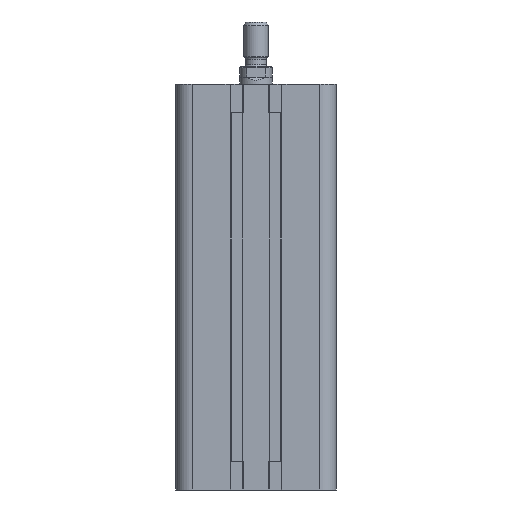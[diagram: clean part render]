
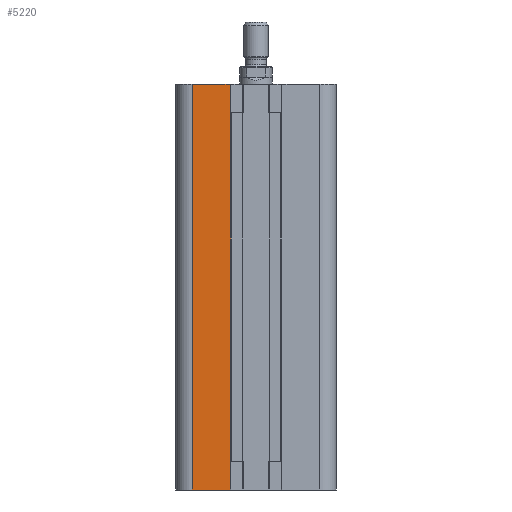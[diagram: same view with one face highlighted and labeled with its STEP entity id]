
A CAD part, front view. The second image highlights one B-rep face of the part: STEP entity #5220.
In plain terms, the highlighted planar face has unit normal (0, -1, 0).
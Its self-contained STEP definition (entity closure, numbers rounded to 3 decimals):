
#149 = EDGE_CURVE ( 'NONE', #9213, #9201, #11507, .T. ) ;
#152 = EDGE_CURVE ( 'NONE', #9214, #5952, #11514, .T. ) ;
#1836 = ORIENTED_EDGE ( 'NONE', *, *, #3525, .T. ) ;
#1837 = ORIENTED_EDGE ( 'NONE', *, *, #3111, .F. ) ;
#1838 = ORIENTED_EDGE ( 'NONE', *, *, #152, .F. ) ;
#1839 = ORIENTED_EDGE ( 'NONE', *, *, #3489, .T. ) ;
#1840 = ORIENTED_EDGE ( 'NONE', *, *, #149, .T. ) ;
#1841 = ORIENTED_EDGE ( 'NONE', *, *, #3492, .F. ) ;
#1842 = ORIENTED_EDGE ( 'NONE', *, *, #3524, .F. ) ;
#1843 = ORIENTED_EDGE ( 'NONE', *, *, #3062, .F. ) ;
#2218 = CARTESIAN_POINT ( 'NONE',  ( -12.7, -39.25, 282.716 ) ) ;
#2224 = DIRECTION ( 'NONE',  ( 0., 0., -1. ) ) ;
#2229 = CARTESIAN_POINT ( 'NONE',  ( -12.375, -39.25, 171. ) ) ;
#2233 = DIRECTION ( 'NONE',  ( 0., 0., 1. ) ) ;
#3062 = EDGE_CURVE ( 'NONE', #5984, #5983, #4470, .T. ) ;
#3111 = EDGE_CURVE ( 'NONE', #5952, #5951, #11758, .T. ) ;
#3489 = EDGE_CURVE ( 'NONE', #9214, #9213, #7593, .T. ) ;
#3492 = EDGE_CURVE ( 'NONE', #9329, #9201, #7599, .T. ) ;
#3524 = EDGE_CURVE ( 'NONE', #5983, #9329, #7649, .T. ) ;
#3525 = EDGE_CURVE ( 'NONE', #5984, #5951, #7651, .T. ) ;
#4470 = LINE ( 'NONE', #4777, #4472 ) ;
#4472 = VECTOR ( 'NONE', #4778, 1000. ) ;
#4777 = CARTESIAN_POINT ( 'NONE',  ( -12.5, -39.25, 185. ) ) ;
#4778 = DIRECTION ( 'NONE',  ( 1., 0., 0. ) ) ;
#4904 = CARTESIAN_POINT ( 'NONE',  ( -39.25, -39.25, -14. ) ) ;
#4905 = DIRECTION ( 'NONE',  ( -1., 0., 0. ) ) ;
#5220 = ADVANCED_FACE ( 'NONE', ( #12916 ), #14414, .F. ) ;
#5951 = VERTEX_POINT ( 'NONE', #14888 ) ;
#5952 = VERTEX_POINT ( 'NONE', #14889 ) ;
#5983 = VERTEX_POINT ( 'NONE', #14920 ) ;
#5984 = VERTEX_POINT ( 'NONE', #14921 ) ;
#6652 = EDGE_LOOP ( 'NONE', ( #1836, #1837, #1838, #1839, #1840, #1841, #1842, #1843 ) ) ;
#7187 = CARTESIAN_POINT ( 'NONE',  ( -39.25, -39.25, 171. ) ) ;
#7188 = DIRECTION ( 'NONE',  ( 1., 0., 0. ) ) ;
#7192 = CARTESIAN_POINT ( 'NONE',  ( -39.25, -39.25, 0. ) ) ;
#7193 = DIRECTION ( 'NONE',  ( 1., 0., 0. ) ) ;
#7270 = CARTESIAN_POINT ( 'NONE',  ( -12.7, -39.25, 282.716 ) ) ;
#7272 = CARTESIAN_POINT ( 'NONE',  ( -31.25, -39.25, 171. ) ) ;
#7275 = DIRECTION ( 'NONE',  ( 0., 0., -1. ) ) ;
#7277 = DIRECTION ( 'NONE',  ( 0., 0., -1. ) ) ;
#7593 = LINE ( 'NONE', #7192, #7596 ) ;
#7596 = VECTOR ( 'NONE', #7193, 1000. ) ;
#7599 = LINE ( 'NONE', #7187, #7601 ) ;
#7601 = VECTOR ( 'NONE', #7188, 1000. ) ;
#7649 = LINE ( 'NONE', #7270, #7654 ) ;
#7651 = LINE ( 'NONE', #7272, #7656 ) ;
#7654 = VECTOR ( 'NONE', #7275, 1000. ) ;
#7656 = VECTOR ( 'NONE', #7277, 1000. ) ;
#8410 = AXIS2_PLACEMENT_3D ( 'NONE', #14409, #14417, #14418 ) ;
#9201 = VERTEX_POINT ( 'NONE', #9633 ) ;
#9213 = VERTEX_POINT ( 'NONE', #9645 ) ;
#9214 = VERTEX_POINT ( 'NONE', #9646 ) ;
#9329 = VERTEX_POINT ( 'NONE', #9761 ) ;
#9633 = CARTESIAN_POINT ( 'NONE',  ( -12.375, -39.25, 171. ) ) ;
#9645 = CARTESIAN_POINT ( 'NONE',  ( -12.375, -39.25, 0. ) ) ;
#9646 = CARTESIAN_POINT ( 'NONE',  ( -12.7, -39.25, 0. ) ) ;
#9761 = CARTESIAN_POINT ( 'NONE',  ( -12.7, -39.25, 171. ) ) ;
#11507 = LINE ( 'NONE', #2229, #11513 ) ;
#11513 = VECTOR ( 'NONE', #2233, 1000. ) ;
#11514 = LINE ( 'NONE', #2218, #11517 ) ;
#11517 = VECTOR ( 'NONE', #2224, 1000. ) ;
#11758 = LINE ( 'NONE', #4904, #11760 ) ;
#11760 = VECTOR ( 'NONE', #4905, 1000. ) ;
#12916 = FACE_OUTER_BOUND ( 'NONE', #6652, .T. ) ;
#14409 = CARTESIAN_POINT ( 'NONE',  ( -39.25, -39.25, 171. ) ) ;
#14414 = PLANE ( 'NONE',  #8410 ) ;
#14417 = DIRECTION ( 'NONE',  ( 0., 1., 0. ) ) ;
#14418 = DIRECTION ( 'NONE',  ( -1., 0., 0. ) ) ;
#14888 = CARTESIAN_POINT ( 'NONE',  ( -31.25, -39.25, -14. ) ) ;
#14889 = CARTESIAN_POINT ( 'NONE',  ( -12.7, -39.25, -14. ) ) ;
#14920 = CARTESIAN_POINT ( 'NONE',  ( -12.7, -39.25, 185. ) ) ;
#14921 = CARTESIAN_POINT ( 'NONE',  ( -31.25, -39.25, 185. ) ) ;
